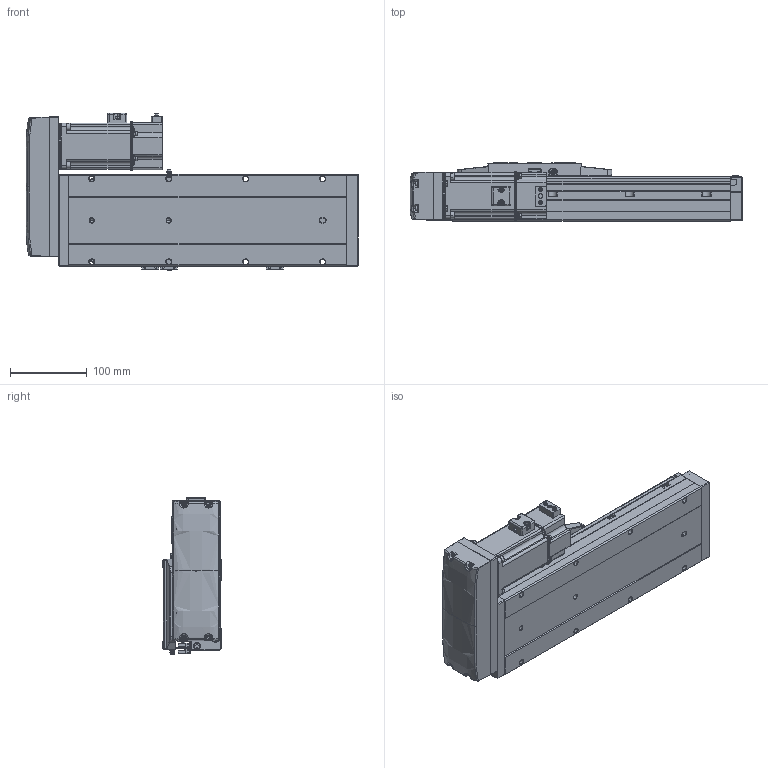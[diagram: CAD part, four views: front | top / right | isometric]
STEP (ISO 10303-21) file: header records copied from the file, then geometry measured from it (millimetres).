
FILE_DESCRIPTION (( 'STEP AP214' ), '1' );
FILE_NAME ('CTH12-L10-S150-BL-C40（简）.STEP', '2023-02-06T05:08:23', ( '' ), ( '' ), 'SwSTEP 2.0', 'SolidWorks 2018', '' );
FILE_SCHEMA (( 'AUTOMOTIVE_DESIGN' ));
Length unit declared in the file: millimetre
Products named in the file (24): CTH12_body_3; CTH12-BL_body_4; CTH嫖萇羲壽假蚾啣; 蚐郲; 嫖萇羲壽郪磁1; 内六角圆柱头螺钉M3-2; hex nuts, style 1-grades ab gb_GB_FASTENER_NUT_SNAB1 M3-N; CTH12賑怢ㄗ潠ㄘ; 400W萇儂; CTH12底座-L361简（150行程）; CTH400W垫板（3个厚）; PM-Y45; CTH12; 内六角圆柱头螺钉M3-1; CTH12覜茼え; 内六角圆柱头螺钉M3; CTH400W假蚾啣; 湮賑怢  裔赽-1(CTH12)賑怢; CTH12-L10-S150-BL-C40（简）; CTH12賑怢郪磁; 嫖萇羲壽郪磁2; CTH12耜蚾裔; M5蹟隊; CTH12侧装连接板（标准）简
Assembly tree (44 placements, depth 4):
  CTH12-L10-S150-BL-C40（简）
    CTH12底座-L361简（150行程）
    蚐郲  x2
    CTH12_body_3
    CTH12-BL_body_4
    CTH12侧装连接板（标准）简
    CTH12耜蚾裔
    CTH12賑怢郪磁
      CTH12
        湮賑怢  裔赽-1(CTH12)賑怢
        CTH12賑怢ㄗ潠ㄘ
    CTH12覜茼え
    CTH400W垫板（3个厚）
    400W萇儂
    内六角圆柱头螺钉M3  x6
    M5蹟隊  x4
    嫖萇羲壽郪磁1
      CTH嫖萇羲壽假蚾啣
      PM-Y45
      内六角圆柱头螺钉M3-2  x2
      内六角圆柱头螺钉M3-1  x2
      hex nuts, style 1-grades ab gb_GB_FASTENER_NUT_SNAB1 M3-N  x2
    嫖萇羲壽郪磁2  x2
      CTH嫖萇羲壽假蚾啣
      PM-Y45
      内六角圆柱头螺钉M3-1
      内六角圆柱头螺钉M3-2
      hex nuts, style 1-grades ab gb_GB_FASTENER_NUT_SNAB1 M3-N
    CTH400W假蚾啣
Bounding box: 431.5 x 76 x 205.26 mm (x, y, z)
Volume: 3184196.8 mm3; surface area: 479328.2 mm2
Topology: 47 solids, 48 shells, 3032 faces, 7547 edges, 4737 vertices
Faces by surface type: plane 1482, cylinder 881, cone 367, bspline 174, torus 124, sphere 4
Entity records: 99146 total; most frequent: CARTESIAN_POINT 37258, ORIENTED_EDGE 12196, DIRECTION 11480, EDGE_CURVE 6098, AXIS2_PLACEMENT_3D 4016, VERTEX_POINT 3841, LINE 3448, VECTOR 3448
